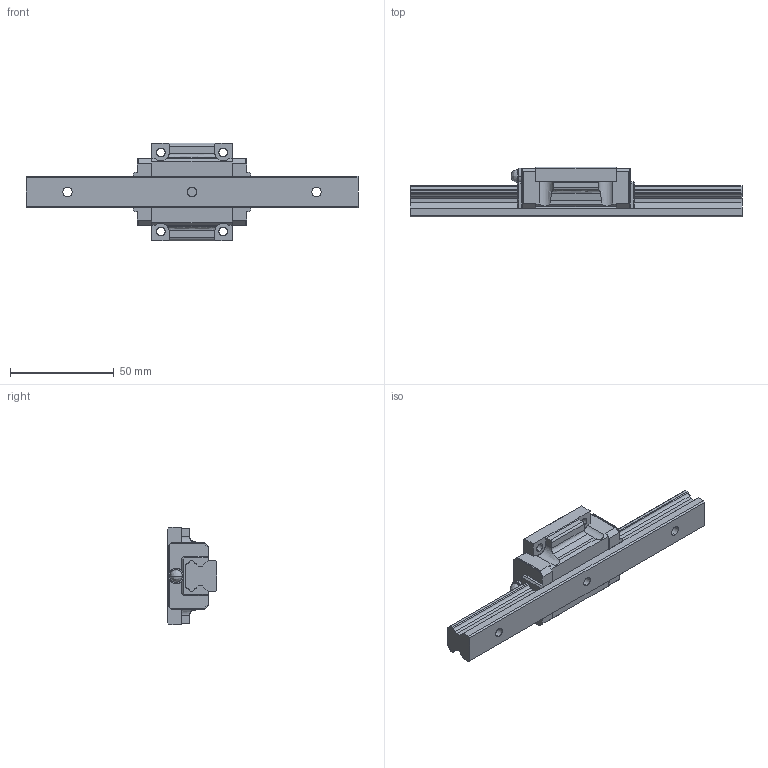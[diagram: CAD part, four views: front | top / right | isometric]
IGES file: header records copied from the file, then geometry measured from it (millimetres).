
Start section: SolidWorks IGES file using analytic representation for surfaces
Global section: file name: D:\Qsync\EOS Design B.V\Projecten\LM Systems\Models HSV\FINISHED\HSV15CSS.IGS; native system: SolidWorks 2016; preprocessor: SolidWorks 2016; author: EOS; date: 160314.144112; units: millimetre
Bounding box: 160 x 24 x 47 mm (x, y, z)
Surface area: 20817.7 mm2 (no closed solid volume)
Topology: 0 solids, 0 shells, 218 faces, 2330 edges, 2328 vertices
Faces by surface type: bspline 160, revolution 58
